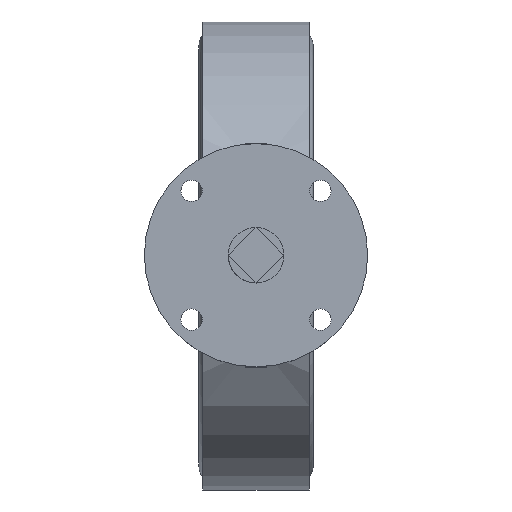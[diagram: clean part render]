
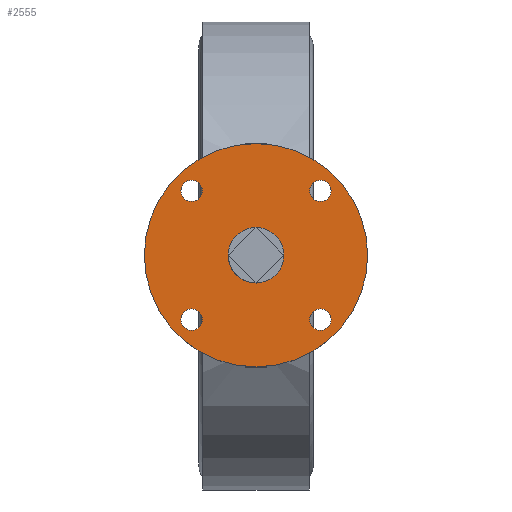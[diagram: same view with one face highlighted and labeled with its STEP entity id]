
A CAD part, top view. The second image highlights one B-rep face of the part: STEP entity #2555.
In plain terms, the highlighted planar face has unit normal (0, 0, 1).
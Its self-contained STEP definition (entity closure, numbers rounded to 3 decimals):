
#2555=ADVANCED_FACE('',(#5561,#5563,#5565,#5567,#5569,#5571),#5573,.T.);
#5561=FACE_BOUND('',#5562,.T.);
#5562=EDGE_LOOP('',(#8520));
#5563=FACE_BOUND('',#5564,.T.);
#5564=EDGE_LOOP('',(#8521));
#5565=FACE_BOUND('',#5566,.T.);
#5566=EDGE_LOOP('',(#8522));
#5567=FACE_BOUND('',#5568,.T.);
#5568=EDGE_LOOP('',(#8523));
#5569=FACE_BOUND('',#5570,.T.);
#5570=EDGE_LOOP('',(#8524));
#5571=FACE_BOUND('',#5572,.T.);
#5572=EDGE_LOOP('',(#8525));
#5573=PLANE('',#5574);
#5574=AXIS2_PLACEMENT_3D('',#5575,#5576,#5577);
#5575=CARTESIAN_POINT('',(0.,0.,243.));
#5576=DIRECTION('',(0.,0.,1.));
#5577=DIRECTION('',(0.,-1.,0.));
#8520=ORIENTED_EDGE('',*,*,#9852,.T.);
#8521=ORIENTED_EDGE('',*,*,#9931,.T.);
#8522=ORIENTED_EDGE('',*,*,#9853,.T.);
#8523=ORIENTED_EDGE('',*,*,#9854,.T.);
#8524=ORIENTED_EDGE('',*,*,#9855,.T.);
#8525=ORIENTED_EDGE('',*,*,#9856,.T.);
#9852=EDGE_CURVE('',#11494,#11494,#11495,.T.);
#9853=EDGE_CURVE('',#11496,#11496,#11497,.F.);
#9854=EDGE_CURVE('',#11498,#11498,#11499,.F.);
#9855=EDGE_CURVE('',#11500,#11500,#11501,.F.);
#9856=EDGE_CURVE('',#11502,#11502,#11503,.F.);
#9931=EDGE_CURVE('',#11625,#11625,#11626,.F.);
#11494=VERTEX_POINT('',#15842);
#11495=CIRCLE('',#15843,62.5);
#11496=VERTEX_POINT('',#15847);
#11497=CIRCLE('',#15848,6.);
#11498=VERTEX_POINT('',#15852);
#11499=CIRCLE('',#15853,6.);
#11500=VERTEX_POINT('',#15857);
#11501=CIRCLE('',#15858,6.);
#11502=VERTEX_POINT('',#15862);
#11503=CIRCLE('',#15863,6.);
#11625=VERTEX_POINT('',#16262);
#11626=CIRCLE('',#16263,15.556);
#15842=CARTESIAN_POINT('',(-62.5,0.,243.));
#15843=AXIS2_PLACEMENT_3D('',#15844,#15845,#15846);
#15844=CARTESIAN_POINT('',(0.,0.,243.));
#15845=DIRECTION('',(0.,0.,1.));
#15846=DIRECTION('',(-1.,0.,0.));
#15847=CARTESIAN_POINT('',(-42.062,-36.062,243.));
#15848=AXIS2_PLACEMENT_3D('',#15849,#15850,#15851);
#15849=CARTESIAN_POINT('',(-36.062,-36.062,243.));
#15850=DIRECTION('',(0.,0.,1.));
#15851=DIRECTION('',(-1.,0.,0.));
#15852=CARTESIAN_POINT('',(36.062,-42.062,243.));
#15853=AXIS2_PLACEMENT_3D('',#15854,#15855,#15856);
#15854=CARTESIAN_POINT('',(36.062,-36.062,243.));
#15855=DIRECTION('',(0.,0.,1.));
#15856=DIRECTION('',(0.,-1.,0.));
#15857=CARTESIAN_POINT('',(42.062,36.062,243.));
#15858=AXIS2_PLACEMENT_3D('',#15859,#15860,#15861);
#15859=CARTESIAN_POINT('',(36.062,36.062,243.));
#15860=DIRECTION('',(0.,0.,1.));
#15861=DIRECTION('',(1.,0.,0.));
#15862=CARTESIAN_POINT('',(-36.062,42.062,243.));
#15863=AXIS2_PLACEMENT_3D('',#15864,#15865,#15866);
#15864=CARTESIAN_POINT('',(-36.062,36.062,243.));
#15865=DIRECTION('',(0.,0.,1.));
#15866=DIRECTION('',(0.,1.,0.));
#16262=CARTESIAN_POINT('',(0.,-15.556,243.));
#16263=AXIS2_PLACEMENT_3D('',#16264,#16265,#16266);
#16264=CARTESIAN_POINT('',(0.,0.,243.));
#16265=DIRECTION('',(0.,0.,1.));
#16266=DIRECTION('',(0.,-1.,0.));
